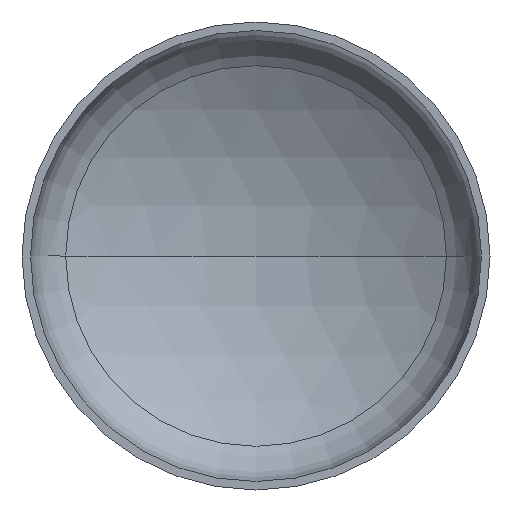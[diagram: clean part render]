
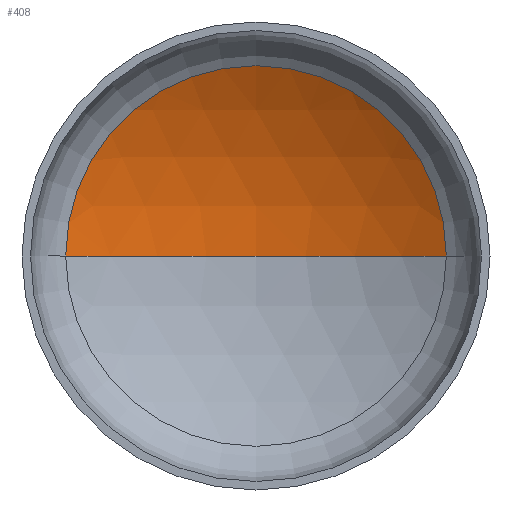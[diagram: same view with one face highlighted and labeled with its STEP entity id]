
A CAD part, front view. The second image highlights one B-rep face of the part: STEP entity #408.
In plain terms, the highlighted spherical face has radius 1360 mm.
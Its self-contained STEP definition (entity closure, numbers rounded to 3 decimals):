
#2 = DIRECTION ( 'NONE',  ( 1., 0., 0. ) ) ;
#11 = ORIENTED_EDGE ( 'NONE', *, *, #83, .T. ) ;
#16 = EDGE_LOOP ( 'NONE', ( #73, #11, #57 ) ) ;
#36 = AXIS2_PLACEMENT_3D ( 'NONE', #332, #185, #2 ) ;
#38 = AXIS2_PLACEMENT_3D ( 'NONE', #207, #190, #191 ) ;
#39 = AXIS2_PLACEMENT_3D ( 'NONE', #226, #213, #222 ) ;
#48 = VERTEX_POINT ( 'NONE', #303 ) ;
#57 = ORIENTED_EDGE ( 'NONE', *, *, #82, .T. ) ;
#73 = ORIENTED_EDGE ( 'NONE', *, *, #85, .F. ) ;
#82 = EDGE_CURVE ( 'NONE', #48, #97, #271, .T. ) ;
#83 = EDGE_CURVE ( 'NONE', #130, #48, #205, .T. ) ;
#85 = EDGE_CURVE ( 'NONE', #130, #97, #384, .T. ) ;
#97 = VERTEX_POINT ( 'NONE', #193 ) ;
#130 = VERTEX_POINT ( 'NONE', #398 ) ;
#185 = DIRECTION ( 'NONE',  ( 0., 0., 1. ) ) ;
#187 = DIRECTION ( 'NONE',  ( -1., 0., 0. ) ) ;
#190 = DIRECTION ( 'NONE',  ( 0., 0., -1. ) ) ;
#191 = DIRECTION ( 'NONE',  ( -1., 0., 0. ) ) ;
#193 = CARTESIAN_POINT ( 'NONE',  ( -691.127, 323.925, 0. ) ) ;
#205 = CIRCLE ( 'NONE', #38, 1360. ) ;
#207 = CARTESIAN_POINT ( 'NONE',  ( 0., -847.375, 0. ) ) ;
#213 = DIRECTION ( 'NONE',  ( 0., -1., 0. ) ) ;
#222 = DIRECTION ( 'NONE',  ( 1., 0., 0. ) ) ;
#226 = CARTESIAN_POINT ( 'NONE',  ( 0., 323.925, 0. ) ) ;
#266 = DIRECTION ( 'NONE',  ( 0., 0., -1. ) ) ;
#271 = CIRCLE ( 'NONE', #39, 691.127 ) ;
#285 = AXIS2_PLACEMENT_3D ( 'NONE', #337, #266, #187 ) ;
#303 = CARTESIAN_POINT ( 'NONE',  ( 691.127, 323.925, 0. ) ) ;
#327 = SPHERICAL_SURFACE ( 'NONE', #285, 1360. ) ;
#332 = CARTESIAN_POINT ( 'NONE',  ( 0., -847.375, 0. ) ) ;
#337 = CARTESIAN_POINT ( 'NONE',  ( 0., -847.375, 0. ) ) ;
#384 = CIRCLE ( 'NONE', #36, 1360. ) ;
#387 = FACE_OUTER_BOUND ( 'NONE', #16, .T. ) ;
#398 = CARTESIAN_POINT ( 'NONE',  ( 0., 512.625, 0. ) ) ;
#408 = ADVANCED_FACE ( 'NONE', ( #387 ), #327, .F. ) ;
